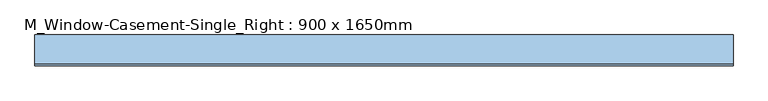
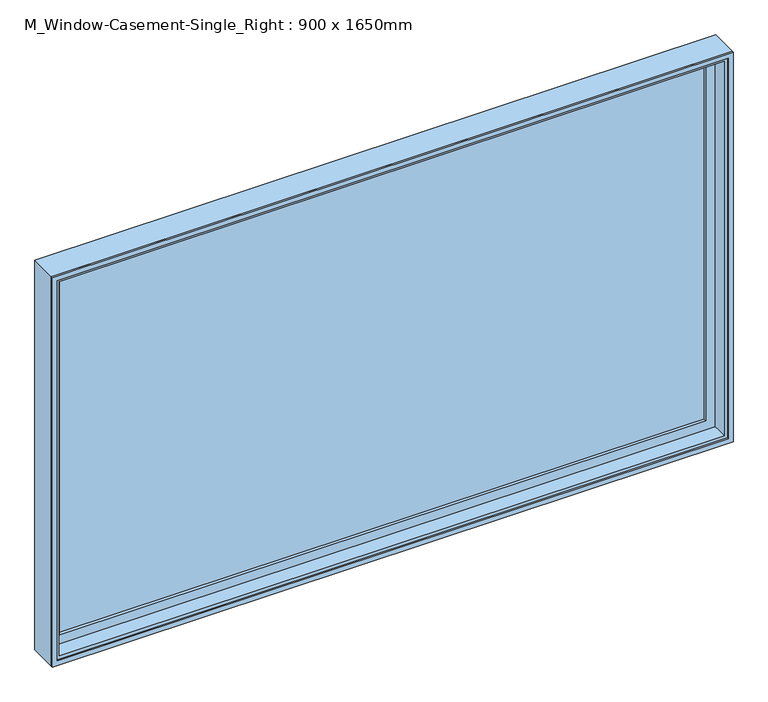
"""IFC4 building model written with IfcOpenShell, lengths in millimetres: window geometry, M_Window-Casement-Single_Right : 900 x 1650mm."""

from ifc_helpers import new_model, si_unit, frame, origin, place, context, project, spatial, polyline, outline, extrude, faceted_brep, source, transform, mapped, element, save


def m_window_casement_single_right_900_x_1650mm_b086eb34(model_context):
    return source(origin(), model_context, "Body", "SolidModel", [
        extrude(outline(polyline([(1294.5476562, 50.8), (1294.5476562, 44.45), (-1294.5476563, 44.45), (-1294.5476563, 50.8), (1294.5476562, 50.8)])), frame((0.0, 0.0, 969.85), z_axis=(0.0, 0.0, 1.0), x_axis=(1.0, 0.0, 0.0)), (0.0, 0.0, 1.0), 1510.3),
        extrude(outline(polyline([(-1294.5476563, 31.75), (-1294.5476563, 38.1), (1294.5476562, 38.1), (1294.5476562, 31.75), (-1294.5476563, 31.75)])), frame((0.0, 0.0, 969.85), z_axis=(0.0, 0.0, 1.0), x_axis=(1.0, 0.0, 0.0)), (0.0, 0.0, 1.0), 1510.3),
        extrude(outline(polyline([(2537.3, -1351.6976563), (912.7, -1351.6976563), (912.7, 1351.6976562), (2537.3, 1351.6976562), (2537.3, -1351.6976563)]), holes=[polyline([(2480.15, 1294.5476562), (969.85, 1294.5476562), (969.85, -1294.5476563), (2480.15, -1294.5476563), (2480.15, 1294.5476562)])]), frame((0.0, 19.05, 0.0), z_axis=(0.0, 1.0, 0.0), x_axis=(0.0, 0.0, 1.0)), (0.0, 0.0, 1.0), 44.45),
        extrude(outline(polyline([(2550.0, -1364.3976563), (900.0, -1364.3976563), (900.0, 1364.3976562), (2550.0, 1364.3976562), (2550.0, -1364.3976563)]), holes=[polyline([(2530.95, 1345.3476562), (919.05, 1345.3476562), (919.05, -1345.3476563), (2530.95, -1345.3476563), (2530.95, 1345.3476562)])]), frame((0.0, -50.8, 0.0), z_axis=(0.0, 1.0, 0.0), x_axis=(0.0, 0.0, 1.0)), (0.0, 0.0, 1.0), 6.35),
        faceted_brep([(1332.6476562, 19.05, 2518.25), (1332.6476562, -44.45, 2518.25), (-1332.6476563, -44.45, 2518.25), (-1332.6476563, 19.05, 2518.25), (1351.6976562, 69.85, 2537.3), (1351.6976562, 19.05, 2537.3), (-1351.6976563, 19.05, 2537.3), (-1351.6976563, 69.85, 2537.3), (1364.3976562, -44.45, 2550.0), (1364.3976562, 69.85, 2550.0), (-1364.3976563, 69.85, 2550.0), (-1364.3976563, -44.45, 2550.0), (-1332.6476563, -44.45, 931.75), (-1332.6476563, 19.05, 931.75), (-1351.6976563, 19.05, 912.7), (-1351.6976563, 69.85, 912.7), (-1364.3976563, 69.85, 900.0), (-1364.3976563, -44.45, 900.0), (1332.6476562, -44.45, 931.75), (1332.6476562, 19.05, 931.75), (1351.6976562, 19.05, 912.7), (1351.6976562, 69.85, 912.7), (1364.3976562, 69.85, 900.0), (1364.3976562, -44.45, 900.0)], [[[0, 1, 2, 3]], [[4, 5, 6, 7]], [[8, 9, 10, 11]], [[3, 2, 12, 13]], [[7, 6, 14, 15]], [[11, 10, 16, 17]], [[13, 12, 18, 19]], [[15, 14, 20, 21]], [[17, 16, 22, 23]], [[11, 17, 23, 8], [1, 18, 12, 2]], [[19, 18, 1, 0]], [[5, 20, 14, 6], [3, 13, 19, 0]], [[21, 20, 5, 4]], [[23, 22, 9, 8]], [[9, 22, 16, 10], [7, 15, 21, 4]]]),
    ])


if __name__ == "__main__":
    model = new_model("IFC4")
    model_context = context("Model", 3, world=origin())
    ifc_project = project(units=[si_unit("LENGTHUNIT", "METRE", prefix="MILLI")], contexts=[model_context])
    site = spatial("IfcSite", under=ifc_project)
    building = spatial("IfcBuilding", under=site)
    placement = place(None, origin())
    m_window_casement_single_right_900_x_1650mm_shape = m_window_casement_single_right_900_x_1650mm_b086eb34(model_context)
    element("IfcWindow", 1, ObjectType="M_Window-Casement-Single_Right : 900 x 1650mm", at=placement, inside=building, context=model_context, shape_type="MappedRepresentation", body=[
        mapped(m_window_casement_single_right_900_x_1650mm_shape, transform((0.0, 0.0, 0.0), x_axis=(1.0, 0.0, 0.0), y_axis=(0.0, 1.0, 0.0), z_axis=(0.0, 0.0, 1.0))),
    ])
    save(model, "model.ifc")
